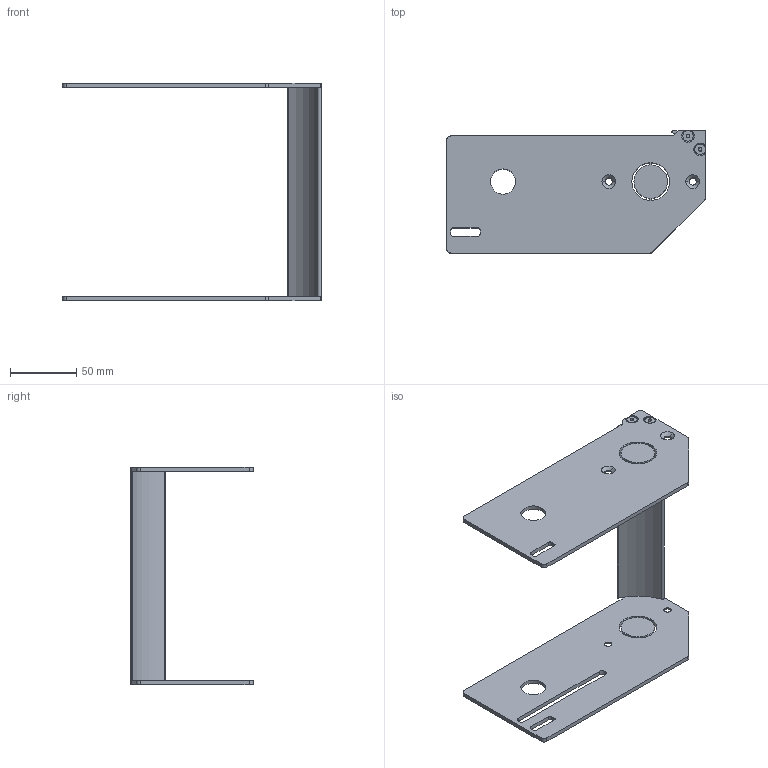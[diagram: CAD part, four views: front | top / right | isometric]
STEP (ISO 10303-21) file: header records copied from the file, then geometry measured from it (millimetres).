
FILE_DESCRIPTION (( 'STEP AP203' ), '1' );
FILE_NAME ('27M3301-06.STEP', '2019-02-06T19:19:05', ( '' ), ( '' ), 'SwSTEP 2.0', 'SolidWorks 2017', '' );
FILE_SCHEMA (( 'CONFIG_CONTROL_DESIGN' ));
Length unit declared in the file: inch
Products named in the file (5): 27M3301-06; 350537; 350538; 9304XXM_930410M; 350539-WW_350539-06
Assembly tree (7 placements, depth 2):
  27M3301-06
    350539-WW_350539-06
    350537
    350538
    9304XXM_930410M  x4
Bounding box: 196.06 x 92.74 x 164.74 mm (x, y, z)
Volume: 144479.9 mm3; surface area: 87913.6 mm2
Topology: 7 solids, 7 shells, 216 faces, 518 edges, 316 vertices
Faces by surface type: cylinder 80, plane 76, cone 60
Entity records: 5278 total; most frequent: CARTESIAN_POINT 882, DIRECTION 841, ORIENTED_EDGE 766, EDGE_CURVE 383, AXIS2_PLACEMENT_3D 317, VERTEX_POINT 244, LINE 207, VECTOR 207
